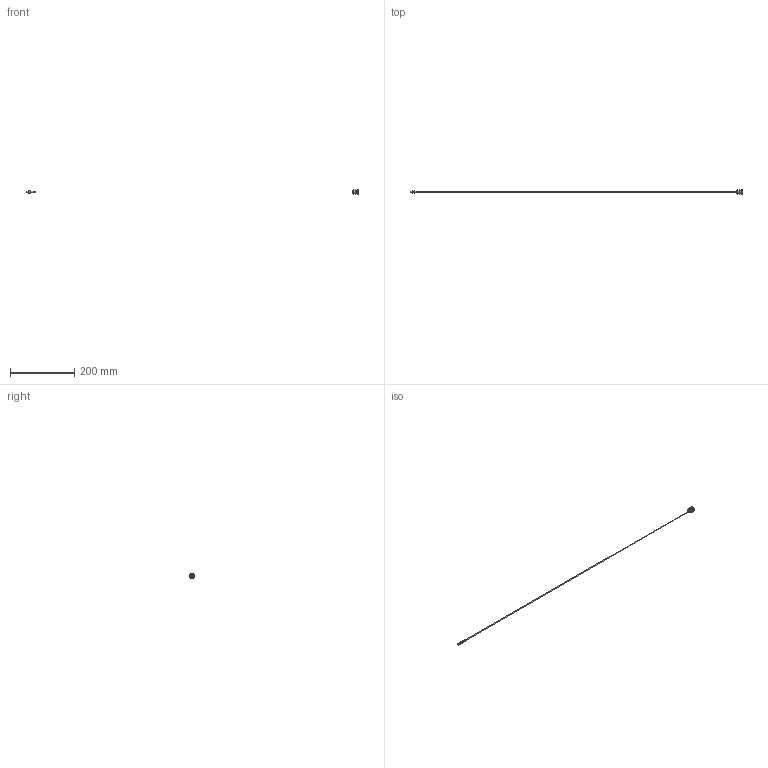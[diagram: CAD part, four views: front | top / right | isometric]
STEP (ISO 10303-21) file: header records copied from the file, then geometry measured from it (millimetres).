
FILE_DESCRIPTION( ( 'STEP AP214' ), '1' );
FILE_NAME( 'L:/99_users/sasakiyu/3Dモデル/圧力/直接式圧力センサ/3D/SPF040X080X030.step', '2020-11-19T02:50:26', ( ' ' ), ( ' ' ), 'XStep 1.0', ' ', ' ' );
FILE_SCHEMA( ( 'automotive_design' ) );
Length unit declared in the file: millimetre
Products named in the file (3): 1; 2; 3
Bounding box: 1030 x 14.48 x 14.48 mm (x, y, z)
Volume: 4630.8 mm3; surface area: 7792.5 mm2
Topology: 3 solids, 3 shells, 88 faces, 200 edges, 129 vertices
Faces by surface type: plane 39, cylinder 25, cone 14, bspline 7, torus 3
Full cylindrical faces by diameter (mm): 1.8 x1, 3 x1, 3.8 x1, 4 x4, 4.9 x1, 5 x3, 7 x1, 7.3 x1, 7.9 x1, 9.5 x1, 10 x1, 11.2 x1, 13.84 x3, 14.48 x1
Entity records: 3747 total; most frequent: CARTESIAN_POINT 1308, DIRECTION 354, ORIENTED_EDGE 300, AXIS2_PLACEMENT_3D 160, EDGE_CURVE 150, EDGE_LOOP 134, VERTEX_POINT 114, FACE_OUTER_BOUND 109
